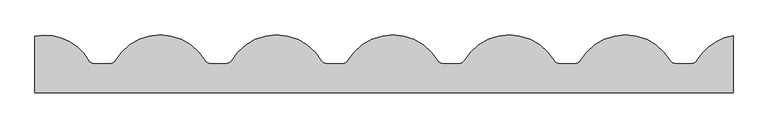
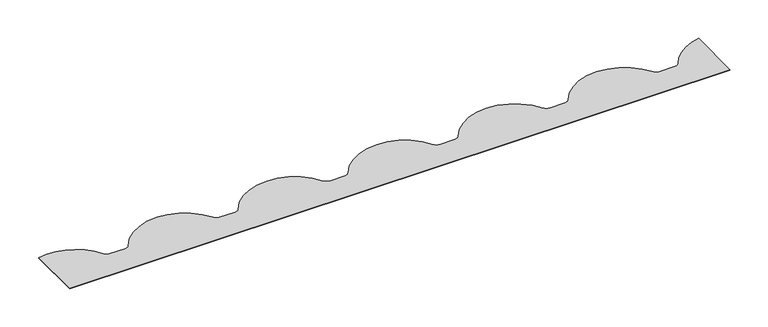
"""IFC4 building model written with IfcOpenShell, lengths in millimetres: proxy geometry, H20.F20.003-C-REMATES TEJA-Silueta : Silueta Teja - Panel 30mm."""

from ifc_helpers import new_model, si_unit, point, frame_2d, origin, origin_with_axes, place, context, project, spatial, polyline, circle_curve, trimmed, segment, composite_curve, outline, extrude, source, transform, mapped, element, save


def generic_models_f6ca269d(model_context):
    return source(origin(), model_context, "Body", "SweptSolid", [
        extrude(outline(composite_curve([segment(polyline([(0.0, 0.0), (0.0, 80.9171984)]), True, "CONTINUOUS"), segment(trimmed(circle_curve(frame_2d((14.6855969, 10.6027253)), 71.8316914), [point((0.0, 80.9171984))], [point((77.203918, 45.9757576))], False, "CARTESIAN"), True, "CONTINUOUS"), segment(trimmed(circle_curve(frame_2d((84.1180682, 50.0)), 8.0), [point((77.203918, 45.9757576))], [point((84.1180682, 42.0))], True, "CARTESIAN"), True, "CONTINUOUS"), segment(polyline([(84.1180682, 42.0), (108.1737204, 42.0)]), True, "CONTINUOUS"), segment(trimmed(circle_curve(frame_2d((108.1737204, 50.0)), 8.0), [point((108.1737204, 42.0))], [point((115.0878706, 45.9757576))], True, "CARTESIAN"), True, "CONTINUOUS"), segment(trimmed(circle_curve(frame_2d((179.4758943, 8.5)), 74.5), [point((115.0878706, 45.9757576))], [point((243.863918, 45.9757576))], False, "CARTESIAN"), True, "CONTINUOUS"), segment(trimmed(circle_curve(frame_2d((250.7780682, 50.0)), 8.0), [point((243.863918, 45.9757576))], [point((250.7780682, 42.0))], True, "CARTESIAN"), True, "CONTINUOUS"), segment(polyline([(250.7780682, 42.0), (274.8337204, 42.0)]), True, "CONTINUOUS"), segment(trimmed(circle_curve(frame_2d((274.8337204, 50.0)), 8.0), [point((274.8337204, 42.0))], [point((281.7478706, 45.9757576))], True, "CARTESIAN"), True, "CONTINUOUS"), segment(trimmed(circle_curve(frame_2d((346.1358943, 8.5)), 74.5), [point((281.7478706, 45.9757576))], [point((410.523918, 45.9757576))], False, "CARTESIAN"), True, "CONTINUOUS"), segment(trimmed(circle_curve(frame_2d((417.4380682, 50.0)), 8.0), [point((410.523918, 45.9757576))], [point((417.4380682, 42.0))], True, "CARTESIAN"), True, "CONTINUOUS"), segment(polyline([(417.4380682, 42.0), (441.4937204, 42.0)]), True, "CONTINUOUS"), segment(trimmed(circle_curve(frame_2d((441.4937204, 50.0)), 8.0), [point((441.4937204, 42.0))], [point((448.4078706, 45.9757576))], True, "CARTESIAN"), True, "CONTINUOUS"), segment(trimmed(circle_curve(frame_2d((512.7958943, 8.5)), 74.5), [point((448.4078706, 45.9757576))], [point((577.183918, 45.9757576))], False, "CARTESIAN"), True, "CONTINUOUS"), segment(trimmed(circle_curve(frame_2d((584.0980682, 50.0)), 8.0), [point((577.183918, 45.9757576))], [point((584.0980682, 42.0))], True, "CARTESIAN"), True, "CONTINUOUS"), segment(polyline([(584.0980682, 42.0), (608.1537204, 42.0)]), True, "CONTINUOUS"), segment(trimmed(circle_curve(frame_2d((608.1537204, 50.0)), 8.0), [point((608.1537204, 42.0))], [point((615.0678706, 45.9757576))], True, "CARTESIAN"), True, "CONTINUOUS"), segment(trimmed(circle_curve(frame_2d((679.4558943, 8.5)), 74.5), [point((615.0678706, 45.9757576))], [point((743.843918, 45.9757576))], False, "CARTESIAN"), True, "CONTINUOUS"), segment(trimmed(circle_curve(frame_2d((750.7580682, 50.0)), 8.0), [point((743.843918, 45.9757576))], [point((750.7580682, 42.0))], True, "CARTESIAN"), True, "CONTINUOUS"), segment(polyline([(750.7580682, 42.0), (774.8137204, 42.0)]), True, "CONTINUOUS"), segment(trimmed(circle_curve(frame_2d((774.8137204, 50.0)), 8.0), [point((774.8137204, 42.0))], [point((781.7278706, 45.9757576))], True, "CARTESIAN"), True, "CONTINUOUS"), segment(trimmed(circle_curve(frame_2d((846.1158943, 8.5)), 74.5), [point((781.7278706, 45.9757576))], [point((910.503918, 45.9757576))], False, "CARTESIAN"), True, "CONTINUOUS"), segment(trimmed(circle_curve(frame_2d((917.4180682, 50.0)), 8.0), [point((910.503918, 45.9757576))], [point((917.4180682, 42.0))], True, "CARTESIAN"), True, "CONTINUOUS"), segment(polyline([(917.4180682, 42.0), (941.4737204, 42.0)]), True, "CONTINUOUS"), segment(trimmed(circle_curve(frame_2d((941.4737204, 50.0)), 8.0), [point((941.4737204, 42.0))], [point((948.3878706, 45.9757576))], True, "CARTESIAN"), True, "CONTINUOUS"), segment(trimmed(circle_curve(frame_2d((1012.7758943, 8.5)), 74.5), [point((948.3878706, 45.9757576))], [point((1000.3814285, 81.9617398))], False, "CARTESIAN"), True, "CONTINUOUS"), segment(polyline([(1000.3814285, 81.9617398), (1000.3814285, 0.0), (0.0, 0.0)]), True, "CONTINUOUS")], self_intersect=False)), origin_with_axes(), (0.0, 0.0, 1.0), 0.8),
    ])


if __name__ == "__main__":
    model = new_model("IFC4")
    model_context = context("Model", 3, world=origin())
    ifc_project = project(units=[si_unit("LENGTHUNIT", "METRE", prefix="MILLI")], contexts=[model_context])
    site = spatial("IfcSite", under=ifc_project)
    building = spatial("IfcBuilding", under=site)
    placement = place(None, origin())
    generic_models_shape = generic_models_f6ca269d(model_context)
    element("IfcBuildingElementProxy", 1, Name="H20.F20.003-C-REMATES TEJA-Silueta : Silueta Teja - Panel 30mm", ObjectType="H20.F20.003-C-REMATES TEJA-Silueta : Silueta Teja - Panel 30mm", at=placement, inside=building, context=model_context, shape_type="MappedRepresentation", body=[
        mapped(generic_models_shape, transform((0.0, 0.0, 0.0), x_axis=(1.0, 0.0, 0.0), y_axis=(0.0, 1.0, 0.0), z_axis=(0.0, 0.0, 1.0))),
    ])
    save(model, "model.ifc")
